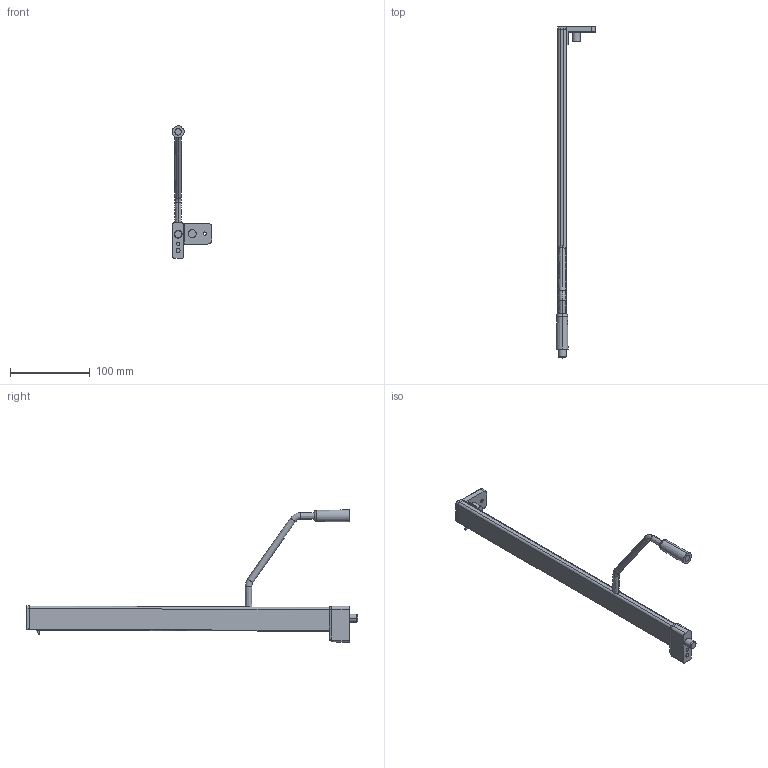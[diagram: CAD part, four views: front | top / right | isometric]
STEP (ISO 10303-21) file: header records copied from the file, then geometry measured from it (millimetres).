
FILE_DESCRIPTION (( 'STEP AP214' ), '1' );
FILE_NAME ('_2S_REL_7606_NL400_LI_Frontstütze.step', '2010-07-01T14:42:04', ( 'grass' ), ( '' ), 'SwSTEP 2.0', 'SolidWorks 2009', '' );
FILE_SCHEMA (( 'AUTOMOTIVE_DESIGN' ));
Length unit declared in the file: millimetre
Products named in the file (1): _2S_REL_7606_NL400_LI_Frontstütze
Bounding box: 49.75 x 415.5 x 165.5 mm (x, y, z)
Volume: 153377.3 mm3; surface area: 43643.1 mm2
Topology: 2 solids, 2 shells, 142 faces, 337 edges, 203 vertices
Faces by surface type: cylinder 60, plane 46, bspline 16, torus 12, cone 6, sphere 2
Entity records: 5241 total; most frequent: CARTESIAN_POINT 2069, ORIENTED_EDGE 670, DIRECTION 647, EDGE_CURVE 335, AXIS2_PLACEMENT_3D 247, VERTEX_POINT 203, LINE 153, VECTOR 153
